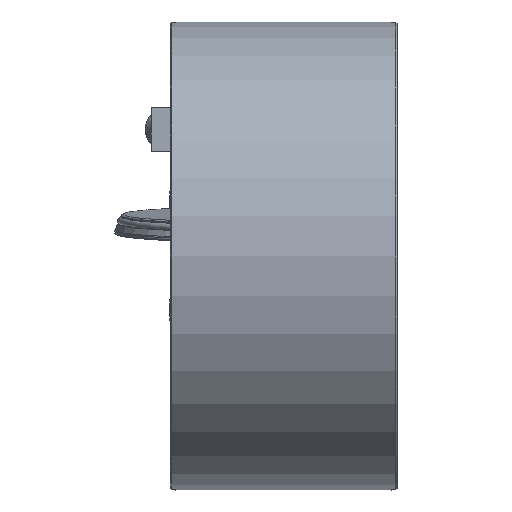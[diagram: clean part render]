
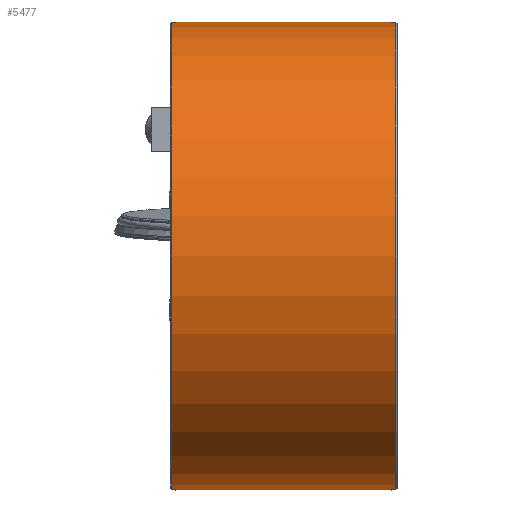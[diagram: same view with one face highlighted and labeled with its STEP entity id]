
A CAD part, left-side view. The second image highlights one B-rep face of the part: STEP entity #5477.
In plain terms, the highlighted cylindrical face has radius 82.5 mm (diameter 165 mm), a full revolution.
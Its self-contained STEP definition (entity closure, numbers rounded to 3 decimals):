
#3491=CYLINDRICAL_SURFACE('',#15881,82.5);
#3782=FACE_BOUND('',#7129,.T.);
#3783=FACE_BOUND('',#7130,.T.);
#3784=FACE_BOUND('',#7131,.T.);
#4791=CIRCLE('',#15871,82.5);
#4792=CIRCLE('',#15872,82.5);
#4793=CIRCLE('',#15873,82.5);
#4794=CIRCLE('',#15874,82.5);
#4795=CIRCLE('',#15875,82.5);
#4796=CIRCLE('',#15876,82.5);
#4797=CIRCLE('',#15877,82.5);
#4798=CIRCLE('',#15878,82.5);
#4799=CIRCLE('',#15879,82.5);
#4800=CIRCLE('',#15880,82.5);
#5477=ADVANCED_FACE('',(#3782,#3783,#3784),#3491,.T.);
#7129=EDGE_LOOP('',(#8555,#8556,#8557,#8558));
#7130=EDGE_LOOP('',(#8559,#8560,#8561,#8562,#8563,#8564,#8565,#8566));
#7131=EDGE_LOOP('',(#8567,#8568,#8569,#8570,#8571,#8572,#8573,#8574));
#8555=ORIENTED_EDGE('',*,*,#12889,.F.);
#8556=ORIENTED_EDGE('',*,*,#12890,.F.);
#8557=ORIENTED_EDGE('',*,*,#12891,.F.);
#8558=ORIENTED_EDGE('',*,*,#12892,.F.);
#8559=ORIENTED_EDGE('',*,*,#12893,.T.);
#8560=ORIENTED_EDGE('',*,*,#12894,.T.);
#8561=ORIENTED_EDGE('',*,*,#12895,.F.);
#8562=ORIENTED_EDGE('',*,*,#12896,.T.);
#8563=ORIENTED_EDGE('',*,*,#12897,.T.);
#8564=ORIENTED_EDGE('',*,*,#12898,.F.);
#8565=ORIENTED_EDGE('',*,*,#12899,.T.);
#8566=ORIENTED_EDGE('',*,*,#12900,.F.);
#8567=ORIENTED_EDGE('',*,*,#12901,.T.);
#8568=ORIENTED_EDGE('',*,*,#12902,.T.);
#8569=ORIENTED_EDGE('',*,*,#12903,.F.);
#8570=ORIENTED_EDGE('',*,*,#12904,.F.);
#8571=ORIENTED_EDGE('',*,*,#12905,.T.);
#8572=ORIENTED_EDGE('',*,*,#12906,.T.);
#8573=ORIENTED_EDGE('',*,*,#12907,.F.);
#8574=ORIENTED_EDGE('',*,*,#12908,.F.);
#11614=VERTEX_POINT('',#21267);
#11615=VERTEX_POINT('',#21268);
#11616=VERTEX_POINT('',#21270);
#11617=VERTEX_POINT('',#21272);
#11618=VERTEX_POINT('',#21275);
#11619=VERTEX_POINT('',#21276);
#11620=VERTEX_POINT('',#21278);
#11621=VERTEX_POINT('',#21280);
#11622=VERTEX_POINT('',#21282);
#11623=VERTEX_POINT('',#21284);
#11624=VERTEX_POINT('',#21286);
#11625=VERTEX_POINT('',#21288);
#11626=VERTEX_POINT('',#21291);
#11627=VERTEX_POINT('',#21292);
#11628=VERTEX_POINT('',#21294);
#11629=VERTEX_POINT('',#21296);
#11630=VERTEX_POINT('',#21298);
#11631=VERTEX_POINT('',#21300);
#11632=VERTEX_POINT('',#21302);
#11633=VERTEX_POINT('',#21304);
#12889=EDGE_CURVE('',#11614,#11615,#4791,.T.);
#12890=EDGE_CURVE('',#11616,#11614,#14441,.T.);
#12891=EDGE_CURVE('',#11617,#11616,#4792,.T.);
#12892=EDGE_CURVE('',#11615,#11617,#14442,.T.);
#12893=EDGE_CURVE('',#11618,#11619,#4793,.T.);
#12894=EDGE_CURVE('',#11619,#11620,#14443,.T.);
#12895=EDGE_CURVE('',#11621,#11620,#4794,.T.);
#12896=EDGE_CURVE('',#11621,#11622,#14444,.T.);
#12897=EDGE_CURVE('',#11622,#11623,#4795,.T.);
#12898=EDGE_CURVE('',#11624,#11623,#14445,.T.);
#12899=EDGE_CURVE('',#11624,#11625,#4796,.T.);
#12900=EDGE_CURVE('',#11618,#11625,#14446,.T.);
#12901=EDGE_CURVE('',#11626,#11627,#4797,.T.);
#12902=EDGE_CURVE('',#11627,#11628,#14447,.T.);
#12903=EDGE_CURVE('',#11629,#11628,#4798,.T.);
#12904=EDGE_CURVE('',#11630,#11629,#14448,.T.);
#12905=EDGE_CURVE('',#11630,#11631,#4799,.T.);
#12906=EDGE_CURVE('',#11631,#11632,#14449,.T.);
#12907=EDGE_CURVE('',#11633,#11632,#4800,.T.);
#12908=EDGE_CURVE('',#11626,#11633,#14450,.T.);
#14441=LINE('',#21269,#15152);
#14442=LINE('',#21273,#15153);
#14443=LINE('',#21277,#15154);
#14444=LINE('',#21281,#15155);
#14445=LINE('',#21285,#15156);
#14446=LINE('',#21289,#15157);
#14447=LINE('',#21293,#15158);
#14448=LINE('',#21297,#15159);
#14449=LINE('',#21301,#15160);
#14450=LINE('',#21305,#15161);
#15152=VECTOR('',#17494,1.);
#15153=VECTOR('',#17497,1.);
#15154=VECTOR('',#17500,1.);
#15155=VECTOR('',#17503,1.);
#15156=VECTOR('',#17506,1.);
#15157=VECTOR('',#17509,1.);
#15158=VECTOR('',#17512,1.);
#15159=VECTOR('',#17515,1.);
#15160=VECTOR('',#17518,1.);
#15161=VECTOR('',#17521,1.);
#15871=AXIS2_PLACEMENT_3D('',#21266,#17492,#17493);
#15872=AXIS2_PLACEMENT_3D('',#21271,#17495,#17496);
#15873=AXIS2_PLACEMENT_3D('',#21274,#17498,#17499);
#15874=AXIS2_PLACEMENT_3D('',#21279,#17501,#17502);
#15875=AXIS2_PLACEMENT_3D('',#21283,#17504,#17505);
#15876=AXIS2_PLACEMENT_3D('',#21287,#17507,#17508);
#15877=AXIS2_PLACEMENT_3D('',#21290,#17510,#17511);
#15878=AXIS2_PLACEMENT_3D('',#21295,#17513,#17514);
#15879=AXIS2_PLACEMENT_3D('',#21299,#17516,#17517);
#15880=AXIS2_PLACEMENT_3D('',#21303,#17519,#17520);
#15881=AXIS2_PLACEMENT_3D('',#21306,#17522,#17523);
#17492=DIRECTION('',(-1.,0.,0.));
#17493=DIRECTION('',(0.,0.,-1.));
#17494=DIRECTION('',(1.,0.,0.));
#17495=DIRECTION('',(1.,0.,0.));
#17496=DIRECTION('',(0.,0.,1.));
#17497=DIRECTION('',(-1.,0.,0.));
#17498=DIRECTION('',(-1.,0.,0.));
#17499=DIRECTION('',(0.,0.,1.));
#17500=DIRECTION('',(-1.,0.,0.));
#17501=DIRECTION('',(1.,0.,0.));
#17502=DIRECTION('',(0.,0.,1.));
#17503=DIRECTION('',(1.,0.,0.));
#17504=DIRECTION('',(-1.,0.,0.));
#17505=DIRECTION('',(0.,0.,1.));
#17506=DIRECTION('',(1.,0.,0.));
#17507=DIRECTION('',(-1.,0.,0.));
#17508=DIRECTION('',(0.,0.,-1.));
#17509=DIRECTION('',(-1.,0.,0.));
#17510=DIRECTION('',(1.,0.,0.));
#17511=DIRECTION('',(0.,0.,1.));
#17512=DIRECTION('',(-1.,0.,0.));
#17513=DIRECTION('',(-1.,0.,0.));
#17514=DIRECTION('',(0.,0.,1.));
#17515=DIRECTION('',(-1.,0.,0.));
#17516=DIRECTION('',(1.,0.,0.));
#17517=DIRECTION('',(0.,0.,-1.));
#17518=DIRECTION('',(-1.,0.,0.));
#17519=DIRECTION('',(-1.,0.,0.));
#17520=DIRECTION('',(0.,0.,1.));
#17521=DIRECTION('',(-1.,0.,0.));
#17522=DIRECTION('',(-1.,0.,0.));
#17523=DIRECTION('',(0.,0.,1.));
#21266=CARTESIAN_POINT('',(68.038,0.,0.));
#21267=CARTESIAN_POINT('',(68.038,70.,43.661));
#21268=CARTESIAN_POINT('',(68.038,70.,-43.661));
#21269=CARTESIAN_POINT('',(0.,70.,43.661));
#21270=CARTESIAN_POINT('',(31.963,70.,43.661));
#21271=CARTESIAN_POINT('',(31.963,0.,0.));
#21272=CARTESIAN_POINT('',(31.963,70.,-43.661));
#21273=CARTESIAN_POINT('',(0.,70.,-43.661));
#21274=CARTESIAN_POINT('',(79.5,0.,0.));
#21275=CARTESIAN_POINT('',(79.5,3.,82.445));
#21276=CARTESIAN_POINT('',(79.5,3.,-82.445));
#21277=CARTESIAN_POINT('',(0.,3.,-82.445));
#21278=CARTESIAN_POINT('',(78.,3.,-82.445));
#21279=CARTESIAN_POINT('',(78.,0.,0.));
#21280=CARTESIAN_POINT('',(78.,-3.,-82.445));
#21281=CARTESIAN_POINT('',(0.,-3.,-82.445));
#21282=CARTESIAN_POINT('',(79.5,-3.,-82.445));
#21283=CARTESIAN_POINT('',(79.5,0.,0.));
#21284=CARTESIAN_POINT('',(79.5,-3.,82.445));
#21285=CARTESIAN_POINT('',(0.,-3.,82.445));
#21286=CARTESIAN_POINT('',(78.,-3.,82.445));
#21287=CARTESIAN_POINT('',(78.,0.,0.));
#21288=CARTESIAN_POINT('',(78.,3.,82.445));
#21289=CARTESIAN_POINT('',(0.,3.,82.445));
#21290=CARTESIAN_POINT('',(2.,0.,0.));
#21291=CARTESIAN_POINT('',(2.,-3.,-82.445));
#21292=CARTESIAN_POINT('',(2.,3.,-82.445));
#21293=CARTESIAN_POINT('',(2.,3.,-82.445));
#21294=CARTESIAN_POINT('',(0.5,3.,-82.445));
#21295=CARTESIAN_POINT('',(0.5,0.,0.));
#21296=CARTESIAN_POINT('',(0.5,3.,82.445));
#21297=CARTESIAN_POINT('',(2.,3.,82.445));
#21298=CARTESIAN_POINT('',(2.,3.,82.445));
#21299=CARTESIAN_POINT('',(2.,0.,0.));
#21300=CARTESIAN_POINT('',(2.,-3.,82.445));
#21301=CARTESIAN_POINT('',(2.,-3.,82.445));
#21302=CARTESIAN_POINT('',(0.5,-3.,82.445));
#21303=CARTESIAN_POINT('',(0.5,0.,0.));
#21304=CARTESIAN_POINT('',(0.5,-3.,-82.445));
#21305=CARTESIAN_POINT('',(2.,-3.,-82.445));
#21306=CARTESIAN_POINT('',(0.,0.,0.));
